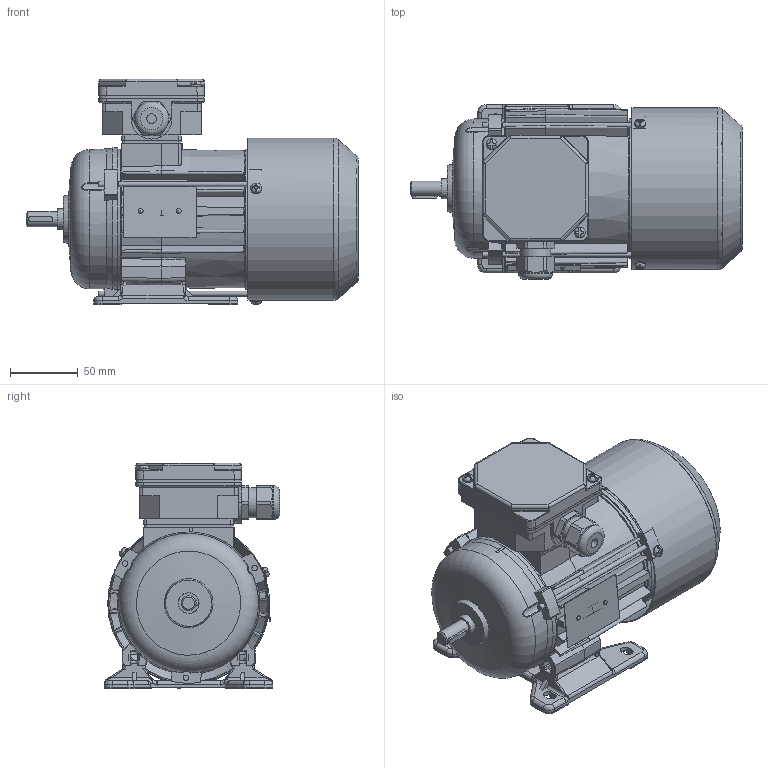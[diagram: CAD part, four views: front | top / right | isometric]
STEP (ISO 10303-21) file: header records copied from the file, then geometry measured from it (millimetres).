
FILE_DESCRIPTION(/* description */ ('Unknown'),/* implementation_level */ '2;1');
FILE_NAME(/* name */ '3SIE63-6B',/* time_stamp */ '2021-02-01T14:17:14+01:00',/* author */ ('Unknown'),/* organization */ ('Unknown'),/* preprocessor_version */ 'ST-DEVELOPER v16.7',/* originating_system */ 'Solid Edge',/* authorisation */ 'Unknown');
FILE_SCHEMA (('AUTOMOTIVE_DESIGN {1 0 10303 214 3 1 1}'));
Length unit declared in the file: millimetre
Products named in the file (1): 3SIE63-6B
Bounding box: 244.47 x 129 x 166 mm (x, y, z)
Volume: 545350.8 mm3; surface area: 354643.4 mm2
Topology: 1 solids, 1 shells, 2393 faces, 6826 edges, 4429 vertices
Faces by surface type: plane 1209, cylinder 559, cone 297, torus 159, bspline 148, sphere 21
Full cylindrical faces by diameter (mm): 2 x1, 2.4 x2, 3.7 x7, 3.8 x1, 4 x8, 4.5 x3, 4.8 x2, 5 x2, 7 x4, 8 x6, 10.998 x1, 12.897 x1, 13.097 x1, 14.997 x2, 15.4 x2, 18.996 x2, 19.496 x1, 19.996 x1, 20.096 x1, 21.516 x4, 22.3 x1, 25 x1, 28 x2, 28.48 x4, 31 x2, 35 x3, 71.986 x1, 99 x2, 118 x1, 119.2 x1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
Entity records: 98277 total; most frequent: CARTESIAN_POINT 21509, ORIENTED_EDGE 13020, DIRECTION 11869, EDGE_CURVE 6510, AXIS2_PLACEMENT_3D 4323, VERTEX_POINT 4310, LINE 3223, VECTOR 3223
